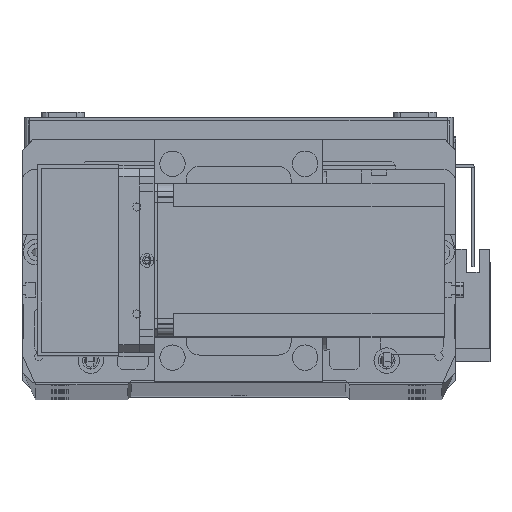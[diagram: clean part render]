
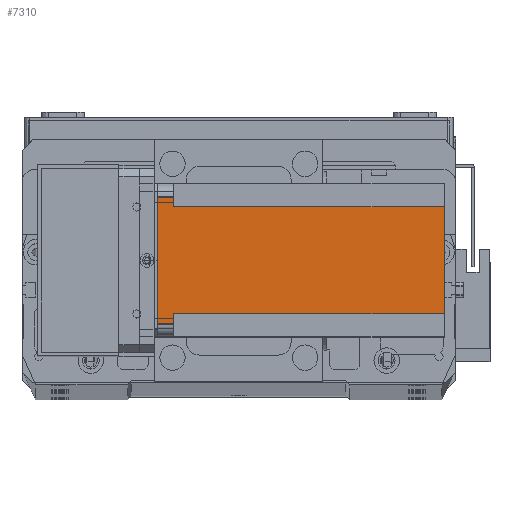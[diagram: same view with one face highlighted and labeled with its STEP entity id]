
A CAD part, top view. The second image highlights one B-rep face of the part: STEP entity #7310.
In plain terms, the highlighted planar face has unit normal (0, 0, 1) as drawn and (-1, 0, 0) by its records, which use the part's own axes.
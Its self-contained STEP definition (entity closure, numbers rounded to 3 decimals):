
#1137 = EDGE_CURVE ( 'NONE', #5137, #26681, #32960, .T. ) ;
#1634 = LINE ( 'NONE', #33573, #21484 ) ;
#2118 = VERTEX_POINT ( 'NONE', #25706 ) ;
#2119 = VECTOR ( 'NONE', #8396, 1000. ) ;
#2638 = VECTOR ( 'NONE', #5431, 1000. ) ;
#2705 = CARTESIAN_POINT ( 'NONE',  ( 0., 0., 0. ) ) ;
#2757 = ORIENTED_EDGE ( 'NONE', *, *, #30033, .F. ) ;
#2771 = CARTESIAN_POINT ( 'NONE',  ( 0., 9., -112.5 ) ) ;
#3185 = LINE ( 'NONE', #6383, #4034 ) ;
#3500 = LINE ( 'NONE', #2705, #2638 ) ;
#4034 = VECTOR ( 'NONE', #25307, 1000. ) ;
#4436 = CARTESIAN_POINT ( 'NONE',  ( 0., 51., -112.5 ) ) ;
#4683 = PLANE ( 'NONE',  #30682 ) ;
#4977 = CARTESIAN_POINT ( 'NONE',  ( 0., 51., -112.5 ) ) ;
#5137 = VERTEX_POINT ( 'NONE', #34695 ) ;
#5431 = DIRECTION ( 'NONE',  ( 0., -1., 0. ) ) ;
#6383 = CARTESIAN_POINT ( 'NONE',  ( 0., 60., -6.5 ) ) ;
#7310 = ADVANCED_FACE ( 'NONE', ( #7379 ), #4683, .T. ) ;
#7371 = VERTEX_POINT ( 'NONE', #13069 ) ;
#7379 = FACE_OUTER_BOUND ( 'NONE', #15728, .T. ) ;
#7408 = DIRECTION ( 'NONE',  ( 0., -1., 0. ) ) ;
#7753 = EDGE_CURVE ( 'NONE', #20135, #28927, #9020, .T. ) ;
#8396 = DIRECTION ( 'NONE',  ( 0., 0., 1. ) ) ;
#8833 = EDGE_CURVE ( 'NONE', #23212, #28927, #13598, .T. ) ;
#8884 = LINE ( 'NONE', #12855, #16068 ) ;
#9020 = LINE ( 'NONE', #25369, #29746 ) ;
#9048 = ORIENTED_EDGE ( 'NONE', *, *, #18431, .T. ) ;
#9141 = DIRECTION ( 'NONE',  ( 0., 0., -1. ) ) ;
#9288 = LINE ( 'NONE', #4977, #2119 ) ;
#9894 = EDGE_CURVE ( 'NONE', #23212, #2118, #9288, .T. ) ;
#11656 = DIRECTION ( 'NONE',  ( 0., -1., 0. ) ) ;
#12740 = DIRECTION ( 'NONE',  ( 0., 1., 0. ) ) ;
#12855 = CARTESIAN_POINT ( 'NONE',  ( 0., 0., -6.5 ) ) ;
#13069 = CARTESIAN_POINT ( 'NONE',  ( 0., 55., 0. ) ) ;
#13212 = DIRECTION ( 'NONE',  ( 0., 0., 1. ) ) ;
#13598 = LINE ( 'NONE', #14380, #34341 ) ;
#14380 = CARTESIAN_POINT ( 'NONE',  ( 0., 0., -112.5 ) ) ;
#15691 = ORIENTED_EDGE ( 'NONE', *, *, #7753, .F. ) ;
#15728 = EDGE_LOOP ( 'NONE', ( #23036, #24547, #29911, #9048, #2757, #24861, #26583, #15691 ) ) ;
#16068 = VECTOR ( 'NONE', #12740, 1000. ) ;
#18431 = EDGE_CURVE ( 'NONE', #7371, #33631, #1634, .T. ) ;
#18652 = CARTESIAN_POINT ( 'NONE',  ( 0., 5., 0. ) ) ;
#20135 = VERTEX_POINT ( 'NONE', #25320 ) ;
#21484 = VECTOR ( 'NONE', #25446, 1000. ) ;
#23036 = ORIENTED_EDGE ( 'NONE', *, *, #24626, .F. ) ;
#23212 = VERTEX_POINT ( 'NONE', #4436 ) ;
#23610 = DIRECTION ( 'NONE',  ( -1., 0., 0. ) ) ;
#24547 = ORIENTED_EDGE ( 'NONE', *, *, #1137, .T. ) ;
#24626 = EDGE_CURVE ( 'NONE', #5137, #20135, #8884, .T. ) ;
#24861 = ORIENTED_EDGE ( 'NONE', *, *, #9894, .F. ) ;
#25307 = DIRECTION ( 'NONE',  ( 0., 1., 0. ) ) ;
#25320 = CARTESIAN_POINT ( 'NONE',  ( 0., 9., -6.5 ) ) ;
#25369 = CARTESIAN_POINT ( 'NONE',  ( 0., 9., -112.5 ) ) ;
#25446 = DIRECTION ( 'NONE',  ( 0., 0., -1. ) ) ;
#25706 = CARTESIAN_POINT ( 'NONE',  ( 0., 51., -6.5 ) ) ;
#25783 = VECTOR ( 'NONE', #13212, 1000. ) ;
#26166 = CARTESIAN_POINT ( 'NONE',  ( 0., 55., -6.5 ) ) ;
#26583 = ORIENTED_EDGE ( 'NONE', *, *, #8833, .T. ) ;
#26681 = VERTEX_POINT ( 'NONE', #18652 ) ;
#28033 = CARTESIAN_POINT ( 'NONE',  ( 0., 5., -112.5 ) ) ;
#28927 = VERTEX_POINT ( 'NONE', #2771 ) ;
#29746 = VECTOR ( 'NONE', #9141, 1000. ) ;
#29911 = ORIENTED_EDGE ( 'NONE', *, *, #35032, .F. ) ;
#30033 = EDGE_CURVE ( 'NONE', #2118, #33631, #3185, .T. ) ;
#30682 = AXIS2_PLACEMENT_3D ( 'NONE', #34359, #23610, #7408 ) ;
#32960 = LINE ( 'NONE', #28033, #25783 ) ;
#33573 = CARTESIAN_POINT ( 'NONE',  ( 0., 55., -112.5 ) ) ;
#33631 = VERTEX_POINT ( 'NONE', #26166 ) ;
#34341 = VECTOR ( 'NONE', #11656, 1000. ) ;
#34359 = CARTESIAN_POINT ( 'NONE',  ( 0., 0., -112.5 ) ) ;
#34695 = CARTESIAN_POINT ( 'NONE',  ( 0., 5., -6.5 ) ) ;
#35032 = EDGE_CURVE ( 'NONE', #7371, #26681, #3500, .T. ) ;
